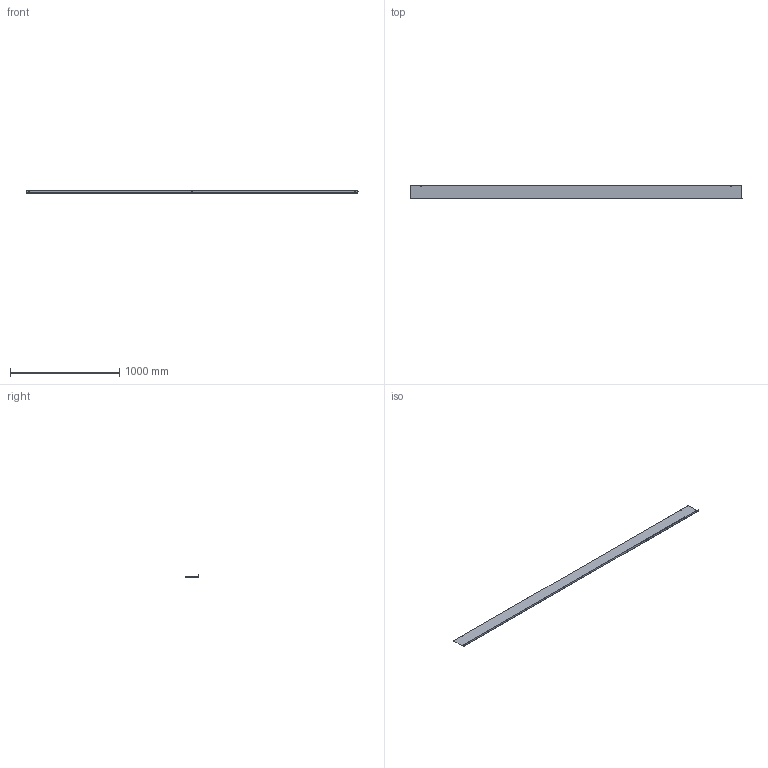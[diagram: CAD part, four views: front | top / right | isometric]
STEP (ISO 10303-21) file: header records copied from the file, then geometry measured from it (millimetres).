
FILE_DESCRIPTION(/* description */ ('1100BA 6" x 120" x 0.75" Assembly'),/* implementation_level */ '2;1');
FILE_NAME(/* name */ '1100BA6120.stp',/* time_stamp */ '2024-08-08T05:17:08-04:00',/* author */ ('BoxCad'),/* organization */ (''),/* preprocessor_version */ 'ST-DEVELOPER v20',/* originating_system */ 'Autodesk Inventor 2024',/* authorisation */ '');
FILE_SCHEMA (('AUTOMOTIVE_DESIGN { 1 0 10303 214 3 1 1 }'));
Length unit declared in the file: inch
Products named in the file (3): 1100BA6120; 1100BA6120-P; STK-P-02400S
Assembly tree (2 placements, depth 2):
  1100BA6120
    1100BA6120-P
    STK-P-02400S
Bounding box: 3035.3 x 127 x 19.05 mm (x, y, z)
Volume: 588443.6 mm3; surface area: 882936.6 mm2
Topology: 1 solids, 1 shells, 23 faces, 55 edges, 34 vertices
Faces by surface type: plane 12, cylinder 11
Full cylindrical faces by diameter (mm): 7.137 x5
Entity records: 804 total; most frequent: DIRECTION 133, CARTESIAN_POINT 117, ORIENTED_EDGE 110, EDGE_CURVE 55, AXIS2_PLACEMENT_3D 50, VERTEX_POINT 34, EDGE_LOOP 33, LINE 33
